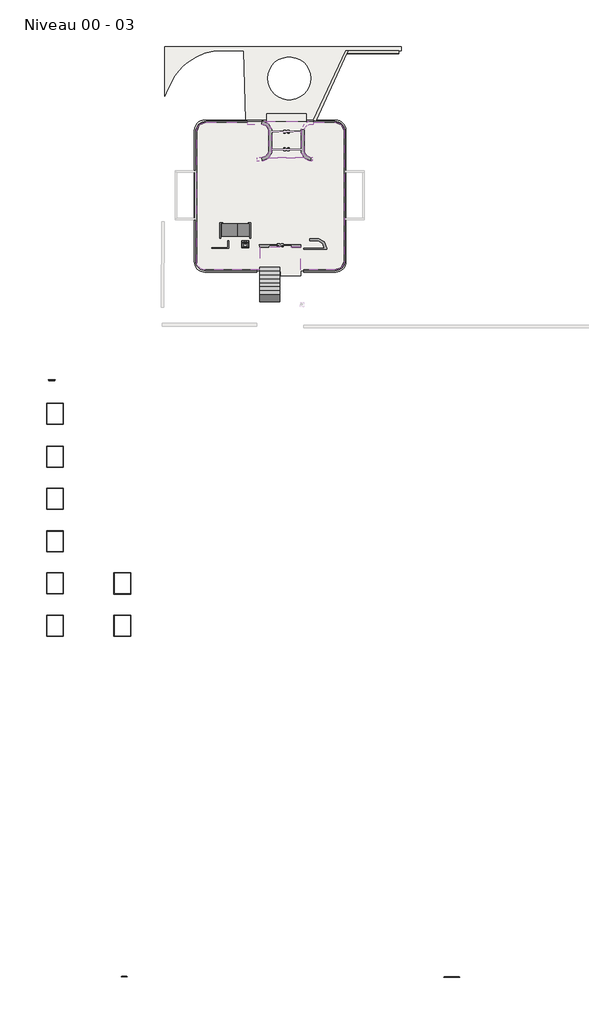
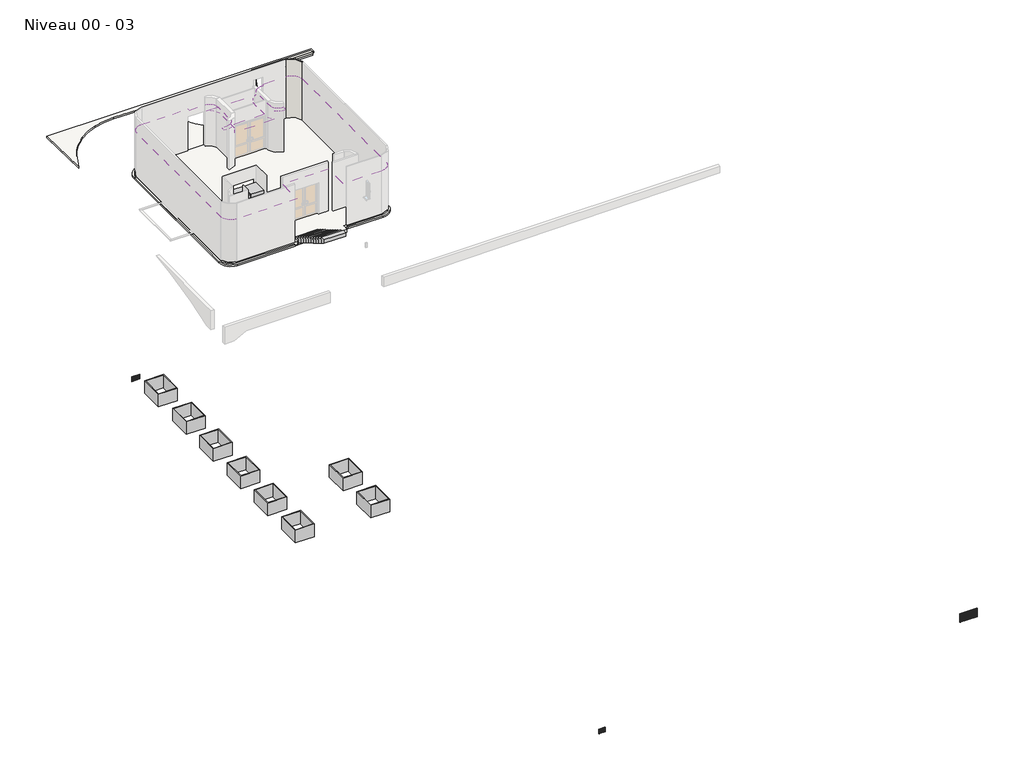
# One storey, part 2 of 2: 4 proxies, 4 slabs, 3 coverings, 3 walls, 1 flow terminal, 1 furniture element, 1 stair flight.
"""IFC4 building model written with IfcOpenShell, lengths in millimetres."""

from ifc_helpers import new_model, si_unit, point, frame, frame_2d, origin, place, context, project, spatial, polyline, circle_curve, ellipse_curve, trimmed, segment, composite_curve, outline, extrude, faceted_brep, transform, mapped, element, save
from ifc_brep_helpers import plane_surface, cylinder_surface, revolved_surface, advanced_brep
from components import generic_models_4b47ab79, type_a_962f2aec, type_a_52706c0e, type_a_0a922c0d, lavabo_mural_02_2417838b, furniture_e2f196c9

model = new_model("IFC4")

# Units and contexts
model_context = context("Model", 3, world=origin())
ifc_project = project(units=[si_unit("LENGTHUNIT", "METRE", prefix="MILLI")], contexts=[model_context])

# Site, building, storey
site = spatial("IfcSite", under=ifc_project)
building = spatial("IfcBuilding", under=site)
storey = spatial("IfcBuildingStorey", under=building, Name="Niveau 00 - 03", Elevation=2313.3082742)

# Proxies
placement = place(None, origin())
generic_models_shape = generic_models_4b47ab79(model_context)
element("IfcBuildingElementProxy", 1, Name="Modèles génériques 2 : Modèles génériques 2", ObjectType="Modèles génériques 2 : Modèles génériques 2", at=placement, inside=storey, context=model_context, shape_type="MappedRepresentation", body=[
    mapped(generic_models_shape, transform((0.0, 0.0, 0.0), x_axis=(1.0, 0.0, 0.0), y_axis=(0.0, 1.0, 0.0), z_axis=(0.0, 0.0, 1.0))),
])
type_a_shape = type_a_962f2aec(model_context)
element("IfcBuildingElementProxy", 2, Name="Grille d'aération - Mur : Type A", ObjectType="Grille d'aération - Mur : Type A", at=placement, inside=storey, context=model_context, shape_type="MappedRepresentation", body=[
    mapped(type_a_shape, transform((-5019.8710852, -34529.054307, 443.3082742), x_axis=(-1.0, 0.0, 0.0), y_axis=(0.0, -1.0, 0.0), z_axis=(0.0, 0.0, 1.0))),
])
type_a_2_shape = type_a_52706c0e(model_context)
element("IfcBuildingElementProxy", 3, Name="Grille d'aération - Mur : Type A", ObjectType="Grille d'aération - Mur : Type A", at=placement, inside=storey, context=model_context, shape_type="MappedRepresentation", body=[
    mapped(type_a_2_shape, transform((-33621.3989741, 7697.6789506, 720.7361025), x_axis=(1.0, 0.0, 0.0), y_axis=(0.0, 1.0, 0.0), z_axis=(0.0, 0.0, 1.0))),
])
type_a_3_shape = type_a_0a922c0d(model_context)
element("IfcBuildingElementProxy", 4, Name="Grille d'aération - Mur : Type A", ObjectType="Grille d'aération - Mur : Type A", at=placement, inside=storey, context=model_context, shape_type="MappedRepresentation", body=[
    mapped(type_a_3_shape, transform((-28237.8120278, -34384.054307, 1112.6019763), x_axis=(-1.0, 0.0, 0.0), y_axis=(0.0, -1.0, 0.0), z_axis=(0.0, 0.0, 1.0))),
])

# Coverings
element("IfcCovering", 5, ObjectType="Normal", at=placement, inside=storey, context=model_context, shape_type="SweptSolid", body=[
    extrude(outline(composite_curve([segment(polyline([(-18422.3557957, 26161.6048398), (-15283.3597966, 26161.6048398)]), True, "CONTINUOUS"), segment(trimmed(circle_curve(frame_2d((-15064.2635748, 25432.2792504)), 761.5241098), [point((-15283.3597966, 26161.6048398))], [point((-15805.3577962, 25607.4886247))], True, "CARTESIAN"), True, "CONTINUOUS"), segment(polyline([(-15805.3577962, 25607.4886247), (-15805.3577962, 23953.4008177)]), True, "CONTINUOUS"), segment(trimmed(circle_curve(frame_2d((-15064.2635748, 24128.610192)), 761.5241098), [point((-15805.3577962, 23953.4008177))], [point((-15601.894376, 23589.2846026))], True, "CARTESIAN"), True, "CONTINUOUS"), segment(polyline([(-15601.894376, 23589.2846026), (-18103.8212163, 23589.2846026)]), True, "CONTINUOUS"), segment(trimmed(circle_curve(frame_2d((-18641.4520175, 24128.610192)), 761.5241098), [point((-18103.8212163, 23589.2846026))], [point((-17900.3577962, 23953.4008177))], True, "CARTESIAN"), True, "CONTINUOUS"), segment(polyline([(-17900.3577962, 23953.4008177), (-17900.3577962, 25607.4886247)]), True, "CONTINUOUS"), segment(trimmed(circle_curve(frame_2d((-18641.4520175, 25432.2792504)), 761.5241098), [point((-17900.3577962, 25607.4886247))], [point((-18422.3557957, 26161.6048398))], True, "CARTESIAN"), True, "CONTINUOUS")], self_intersect=False)), frame((0.0, 0.0, 4513.3082742), z_axis=(0.0, 0.0, 1.0), x_axis=(1.0, 0.0, 0.0)), (0.0, 0.0, 1.0), 50.0),
])
element("IfcCovering", 6, ObjectType="Normal", at=placement, inside=storey, context=model_context, shape_type="SweptSolid", body=[
    extrude(outline(composite_curve([segment(polyline([(-13091.9155198, 26007.5933445), (-13091.9155198, 15704.8586078)]), True, "CONTINUOUS"), segment(trimmed(circle_curve(frame_2d((-13414.5311995, 16284.774502)), 663.6138344), [point((-13091.9155198, 15704.8586078))], [point((-13414.5311995, 15621.1606676))], False, "CARTESIAN"), True, "CONTINUOUS"), segment(polyline([(-13414.5311995, 15621.1606676), (-15835.8209314, 15621.1606676), (-15835.8209314, 17246.0043299), (-18744.0938634, 17246.0043299), (-18744.0938634, 15632.177026), (-22622.8982308, 15632.177026)]), True, "CONTINUOUS"), segment(trimmed(circle_curve(frame_2d((-22586.1843928, 16294.774502)), 663.6138344), [point((-22622.8982308, 15632.177026))], [point((-23228.5797272, 16128.3066207))], False, "CARTESIAN"), True, "CONTINUOUS"), segment(polyline([(-23228.5797272, 16128.3066207), (-23228.5797272, 25455.877722)]), True, "CONTINUOUS"), segment(trimmed(circle_curve(frame_2d((-22565.5504228, 25428.0305911)), 663.6138344), [point((-23228.5797272, 25455.877722))], [point((-22558.3021389, 26091.6048398))], False, "CARTESIAN"), True, "CONTINUOUS"), segment(polyline([(-22558.3021389, 26091.6048398), (-19632.973568, 26091.6048398), (-19632.973568, 25971.6048398), (-18592.7050168, 25971.6048398)]), True, "CONTINUOUS"), segment(trimmed(circle_curve(frame_2d((-18641.4520175, 25432.2792504)), 541.5241098), [point((-18592.7050168, 25971.6048398))], [point((-18120.3577962, 25579.6195841))], False, "CARTESIAN"), True, "CONTINUOUS"), segment(polyline([(-18120.3577962, 25579.6195841), (-18120.3577962, 23981.2698583)]), True, "CONTINUOUS"), segment(trimmed(circle_curve(frame_2d((-18641.4520175, 24128.610192)), 541.5241098), [point((-18120.3577962, 23981.2698583))], [point((-18592.7050168, 23589.2846026))], False, "CARTESIAN"), True, "CONTINUOUS"), segment(polyline([(-18592.7050168, 23589.2846026), (-18947.973568, 23589.2846026), (-18947.973568, 23369.2846026), (-18583.6279824, 23369.2846026)]), True, "CONTINUOUS"), segment(trimmed(circle_curve(frame_2d((-18641.4520175, 24128.610192)), 761.5241098), [point((-18583.6279824, 23369.2846026))], [point((-18103.8212163, 23589.2846026))], True, "CARTESIAN"), True, "CONTINUOUS"), segment(polyline([(-18103.8212163, 23589.2846026), (-15601.894376, 23589.2846026)]), True, "CONTINUOUS"), segment(trimmed(circle_curve(frame_2d((-15064.2635748, 24128.610192)), 761.5241098), [point((-15601.894376, 23589.2846026))], [point((-15122.0876099, 23369.2846026))], True, "CARTESIAN"), True, "CONTINUOUS"), segment(polyline([(-15122.0876099, 23369.2846026), (-14992.7420243, 23369.2846026), (-14992.7420243, 23589.2846026), (-15113.0105755, 23589.2846026)]), True, "CONTINUOUS"), segment(trimmed(circle_curve(frame_2d((-15064.2635748, 24128.610192)), 541.5241098), [point((-15113.0105755, 23589.2846026))], [point((-15585.3577962, 23981.2698583))], False, "CARTESIAN"), True, "CONTINUOUS"), segment(polyline([(-15585.3577962, 23981.2698583), (-15585.3577962, 25579.6195841)]), True, "CONTINUOUS"), segment(trimmed(circle_curve(frame_2d((-15064.2635748, 25432.2792504)), 541.5241098), [point((-15585.3577962, 25579.6195841))], [point((-14902.7420243, 25949.1536551))], False, "CARTESIAN"), True, "CONTINUOUS"), segment(polyline([(-14902.7420243, 25949.1536551), (-14902.7420243, 26091.6048398), (-13422.4134534, 26091.6048398)]), True, "CONTINUOUS"), segment(trimmed(circle_curve(frame_2d((-13415.1651695, 25428.0305911)), 663.6138344), [point((-13422.4134534, 26091.6048398))], [point((-13091.9155198, 26007.5933445))], False, "CARTESIAN"), True, "CONTINUOUS")], self_intersect=False)), frame((0.0, 0.0, 2013.3082742), z_axis=(0.0, 0.0, 1.0), x_axis=(1.0, 0.0, 0.0)), (0.0, 0.0, 1.0), 50.0),
])
element("IfcCovering", 7, ObjectType="Normal FP bois", at=placement, inside=storey, context=model_context, shape_type="SweptSolid", body=[
    extrude(outline(composite_curve([segment(polyline([(-12753.5797272, 25479.8767464), (-12753.5797272, 16225.3903919)]), True, "CONTINUOUS"), segment(trimmed(circle_curve(frame_2d((-13414.5311995, 16284.774502)), 663.6138344), [point((-12753.5797272, 16225.3903919))], [point((-13414.5311995, 15621.1606676))], False, "CARTESIAN"), True, "CONTINUOUS"), segment(polyline([(-13414.5311995, 15621.1606676), (-15835.8209314, 15621.1606676), (-15835.8209314, 17246.0043299), (-18744.0938634, 17246.0043299), (-18744.0938634, 15632.177026), (-22622.8982308, 15632.177026)]), True, "CONTINUOUS"), segment(trimmed(circle_curve(frame_2d((-22586.1843928, 16294.774502)), 663.6138344), [point((-22622.8982308, 15632.177026))], [point((-23228.5797272, 16128.3066207))], False, "CARTESIAN"), True, "CONTINUOUS"), segment(polyline([(-23228.5797272, 16128.3066207), (-23228.5797272, 25455.877722)]), True, "CONTINUOUS"), segment(trimmed(circle_curve(frame_2d((-22565.5504228, 25428.0305911)), 663.6138344), [point((-23228.5797272, 25455.877722))], [point((-22558.3021389, 26091.6048398))], False, "CARTESIAN"), True, "CONTINUOUS"), segment(polyline([(-22558.3021389, 26091.6048398), (-19632.973568, 26091.6048398), (-19632.973568, 25971.6048398), (-18592.7050168, 25971.6048398)]), True, "CONTINUOUS"), segment(trimmed(circle_curve(frame_2d((-18641.4520175, 25432.2792504)), 541.5241098), [point((-18592.7050168, 25971.6048398))], [point((-18120.3577962, 25579.6195841))], False, "CARTESIAN"), True, "CONTINUOUS"), segment(polyline([(-18120.3577962, 25579.6195841), (-18120.3577962, 23981.2698583)]), True, "CONTINUOUS"), segment(trimmed(circle_curve(frame_2d((-18641.4520175, 24128.610192)), 541.5241098), [point((-18120.3577962, 23981.2698583))], [point((-18592.7050168, 23589.2846026))], False, "CARTESIAN"), True, "CONTINUOUS"), segment(polyline([(-18592.7050168, 23589.2846026), (-18947.973568, 23589.2846026), (-18947.973568, 23369.2846026), (-18583.6279824, 23369.2846026)]), True, "CONTINUOUS"), segment(trimmed(circle_curve(frame_2d((-18641.4520175, 24128.610192)), 761.5241098), [point((-18583.6279824, 23369.2846026))], [point((-18103.8212163, 23589.2846026))], True, "CARTESIAN"), True, "CONTINUOUS"), segment(polyline([(-18103.8212163, 23589.2846026), (-15601.894376, 23589.2846026)]), True, "CONTINUOUS"), segment(trimmed(circle_curve(frame_2d((-15064.2635748, 24128.610192)), 761.5241098), [point((-15601.894376, 23589.2846026))], [point((-15122.0876099, 23369.2846026))], True, "CARTESIAN"), True, "CONTINUOUS"), segment(polyline([(-15122.0876099, 23369.2846026), (-14992.7420243, 23369.2846026), (-14992.7420243, 23589.2846026), (-15113.0105755, 23589.2846026)]), True, "CONTINUOUS"), segment(trimmed(circle_curve(frame_2d((-15064.2635748, 24128.610192)), 541.5241098), [point((-15113.0105755, 23589.2846026))], [point((-15585.3577962, 23981.2698583))], False, "CARTESIAN"), True, "CONTINUOUS"), segment(polyline([(-15585.3577962, 23981.2698583), (-15585.3577962, 25579.6195841)]), True, "CONTINUOUS"), segment(trimmed(circle_curve(frame_2d((-15064.2635748, 25432.2792504)), 541.5241098), [point((-15585.3577962, 25579.6195841))], [point((-14902.7420243, 25949.1536551))], False, "CARTESIAN"), True, "CONTINUOUS"), segment(polyline([(-14902.7420243, 25949.1536551), (-14902.7420243, 26091.6048398), (-13422.4134534, 26091.6048398)]), True, "CONTINUOUS"), segment(trimmed(circle_curve(frame_2d((-13415.1651695, 25428.0305911)), 663.6138344), [point((-13422.4134534, 26091.6048398))], [point((-12753.5797272, 25479.8767464))], False, "CARTESIAN"), True, "CONTINUOUS")], self_intersect=False)), frame((0.0, 0.0, 5113.3082742), z_axis=(0.0, 0.0, 1.0), x_axis=(1.0, 0.0, 0.0)), (0.0, 0.0, 1.0), 50.0),
])

# Flow terminal
lavabo_mural_02_shape = lavabo_mural_02_2417838b(model_context)
element("IfcFlowTerminal", 8, ObjectType="Lavabo mural - 02 : 500 mm x 500 mm", at=placement, inside=storey, context=model_context, shape_type="MappedRepresentation", body=[
    mapped(lavabo_mural_02_shape, transform((-19650.8720887, 17783.2103044, 2463.3082742), x_axis=(-1.0, 0.0, 0.0), y_axis=(0.0, -1.0, 0.0), z_axis=(0.0, 0.0, 1.0))),
])

# Furniture
furniture_shape = furniture_e2f196c9(model_context)
element("IfcFurniture", 9, ObjectType="Mobilier 1 : Mobilier 1", at=placement, inside=storey, context=model_context, shape_type="MappedRepresentation", body=[
    mapped(furniture_shape, transform((0.0, 0.0, 0.0), x_axis=(1.0, 0.0, 0.0), y_axis=(0.0, 1.0, 0.0), z_axis=(0.0, 0.0, 1.0))),
])

# Slabs
element("IfcSlab", 10, ObjectType="Générique 100 mm - Plein", at=placement, inside=storey, context=model_context, shape_type="AdvancedBrep", body=[
    advanced_brep(
    [(-12752.2043216, 30970.2669841, 1986.5602146), (-14981.2764828, 26168.9547989, 2112.2869989), (-19740.0250458, 26168.9547989, 2112.2869989), (-19884.2809959, 31164.6919502, 1981.4690177), (-21405.1328258, 31185.3690754, 1980.9275681), (-22689.7407353, 30984.414787, 1986.1897413), (-23867.1761647, 30358.27143, 2002.5858822), (-24505.0663721, 29747.3476336, 2018.5834848), (-24992.1852136, 29015.0069569, 2037.7605003), (-25376.8451797, 28179.4102092, 2059.6413712), (-25496.5851694, 27927.5602823, 2066.2362937), (-25496.5851694, 31469.3817214, 1973.4904352), (-8706.0295786, 31469.3817214, 1973.4904352), (-8706.0295786, 31180.2669841, 1981.0611711), (-8906.0295786, 31180.2669841, 1981.0611711), (-8906.0295786, 30970.2669841, 1986.5602146), (-18178.1627302, 29210.4552905, 2032.6425056), (-15138.1627302, 29210.4552905, 2032.6425056), (-25496.5851694, 27927.5602823, 2166.2705729), (-25376.8451797, 28179.4102092, 2159.6756505), (-24992.1852136, 29015.0069569, 2137.7947796), (-24505.0663721, 29747.3476336, 2118.6177641), (-23867.1761647, 30358.27143, 2102.6201614), (-22689.7407353, 30984.414787, 2086.2240206), (-21405.1328258, 31185.3690754, 2080.9618474), (-19884.2809959, 31164.6919502, 2081.5032969), (-19742.4916647, 26254.3764372, 2210.0844338), (-14941.6183668, 26254.3764372, 2210.0844338), (-12752.2043216, 30970.2669841, 2086.5944939), (-8906.0295786, 30970.2669841, 2086.5944939), (-8906.0295786, 31180.2669841, 2081.0954503), (-8706.0295786, 31180.2669841, 2081.0954503), (-8706.0295786, 31469.3817214, 2073.5247145), (-25496.5851694, 31469.3817214, 2073.5247145), (-15138.1627302, 29210.4552905, 2132.6767848), (-18178.1627302, 29210.4552905, 2132.6767848), (-14941.6183668, 26254.3764372, 2113.3082742), (-14981.2764828, 26168.9547989, 2113.3082742), (-19740.0250458, 26168.9547989, 2113.3082742), (-19742.4916647, 26254.3764372, 2113.3082742)],
    [
        (0, 1),
        (1, 2),
        (2, 3),
        (3, 4),
        (4, 5, ellipse_curve(frame((-21457.749421, 27315.2931231, 2082.2690735), z_axis=(0.0, 0.026176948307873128, 0.9996573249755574), x_axis=(0.0, -0.9996573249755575, 0.026176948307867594)), 3871.7603725, 3870.4336169)),
        (5, 6, ellipse_curve(frame((-21396.0645758, 27131.5830602, 2087.0796908), z_axis=(0.0, 0.026176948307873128, 0.9996573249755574), x_axis=(0.0, -0.9996573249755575, 0.026176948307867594)), 4065.6163976, 4064.2232124)),
        (6, 7, ellipse_curve(frame((-21426.7025094, 27171.5889687, 2086.0320992), z_axis=(0.0, 0.026176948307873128, 0.9996573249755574), x_axis=(0.0, -0.9996573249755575, 0.026176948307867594)), 4015.2090886, 4013.8331768)),
        (7, 8, ellipse_curve(frame((-21426.7025527, 27171.5889824, 2086.0320988), z_axis=(0.0, 0.026176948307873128, 0.9996573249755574), x_axis=(0.0, -0.9996573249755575, 0.026176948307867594)), 4015.2090466, 4013.8331348)),
        (8, 9, ellipse_curve(frame((-104454.4989347, 65088.4818447, 1093.1433162), z_axis=(0.0, -0.026176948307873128, -0.9996573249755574), x_axis=(0.0, 0.9996573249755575, -0.026176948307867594)), 87297.0612182, 87267.1466956)),
        (9, 10, ellipse_curve(frame((-43128.5366774, 36464.9172018, 1842.677735), z_axis=(0.0, -0.026176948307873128, -0.9996573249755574), x_axis=(0.0, 0.9996573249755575, -0.026176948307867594)), 19596.8194024, 19590.1040619)),
        (10, 11),
        (11, 12),
        (12, 13),
        (13, 14),
        (14, 15),
        (15, 0),
        (16, 17, ellipse_curve(frame((-16658.1627302, 29210.4552905, 2032.6425056), z_axis=(0.0, 0.026176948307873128, 0.9996573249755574), x_axis=(0.0, -0.9996573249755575, 0.026176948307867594)), 1520.5210446, 1520.0)),
        (17, 16, ellipse_curve(frame((-16658.1627302, 29210.4552905, 2032.6425056), z_axis=(0.0, 0.026176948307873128, 0.9996573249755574), x_axis=(0.0, -0.9996573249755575, 0.026176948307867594)), 1520.5210446, 1520.0)),
        (18, 19, ellipse_curve(frame((-43128.5366774, 36464.9172018, 1942.7120142), z_axis=(0.0, 0.026176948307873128, 0.9996573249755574), x_axis=(0.0, 0.9996573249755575, -0.026176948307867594)), 19596.8194024, 19590.1040619)),
        (19, 20, ellipse_curve(frame((-104454.4989347, 65088.4818447, 1193.1775954), z_axis=(0.0, 0.026176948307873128, 0.9996573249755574), x_axis=(0.0, 0.9996573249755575, -0.026176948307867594)), 87297.0612182, 87267.1466956)),
        (20, 21, ellipse_curve(frame((-21426.7025527, 27171.5889824, 2186.0663781), z_axis=(0.0, -0.026176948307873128, -0.9996573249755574), x_axis=(0.0, -0.9996573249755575, 0.026176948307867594)), 4015.2090466, 4013.8331348)),
        (21, 22, ellipse_curve(frame((-21426.7025094, 27171.5889687, 2186.0663784), z_axis=(0.0, -0.026176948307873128, -0.9996573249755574), x_axis=(0.0, -0.9996573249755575, 0.026176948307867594)), 4015.2090886, 4013.8331768)),
        (22, 23, ellipse_curve(frame((-21396.0645758, 27131.5830602, 2187.11397), z_axis=(0.0, -0.026176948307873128, -0.9996573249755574), x_axis=(0.0, -0.9996573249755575, 0.026176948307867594)), 4065.6163976, 4064.2232124)),
        (23, 24, ellipse_curve(frame((-21457.749421, 27315.2931231, 2182.3033527), z_axis=(0.0, -0.026176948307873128, -0.9996573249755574), x_axis=(0.0, -0.9996573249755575, 0.026176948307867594)), 3871.7603725, 3870.4336169)),
        (24, 25),
        (25, 26),
        (26, 27),
        (27, 28),
        (28, 29),
        (29, 30),
        (30, 31),
        (31, 32),
        (32, 33),
        (33, 18),
        (34, 35, ellipse_curve(frame((-16658.1627302, 29210.4552905, 2132.6767848), z_axis=(0.0, -0.026176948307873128, -0.9996573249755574), x_axis=(0.0, -0.9996573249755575, 0.026176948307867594)), 1520.5210446, 1520.0)),
        (35, 34, ellipse_curve(frame((-16658.1627302, 29210.4552905, 2132.6767848), z_axis=(0.0, -0.026176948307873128, -0.9996573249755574), x_axis=(0.0, -0.9996573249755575, 0.026176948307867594)), 1520.5210446, 1520.0)),
        (0, 28),
        (27, 36),
        (36, 37),
        (37, 1),
        (37, 38),
        (38, 2),
        (38, 39),
        (39, 26),
        (25, 3),
        (9, 19),
        (18, 10),
        (8, 20),
        (7, 21),
        (6, 22),
        (5, 23),
        (4, 24),
        (33, 11),
        (32, 12),
        (31, 13),
        (15, 29),
        (16, 35),
        (34, 17),
        (36, 39),
        (30, 14),
    ],
    [
        plane_surface(frame((-17360.6507643, 33768.9547989, 1913.273995), z_axis=(0.0, -0.026176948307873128, -0.9996573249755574), x_axis=(0.0, -0.9996573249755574, 0.026176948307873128))),
        plane_surface(frame((-17360.6507643, 33768.9547989, 2013.3082742), z_axis=(0.0, 0.026176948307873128, 0.9996573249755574), x_axis=(0.0, 0.9996573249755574, -0.026176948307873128))),
        plane_surface(frame((-12752.2043216, 30970.2669841, 1986.5602146), z_axis=(0.9070167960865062, -0.42109444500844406, 0.0), x_axis=(0.0, 0.0, 1.0))),
        plane_surface(frame((-14981.2764828, 26168.9547989, 2112.2869989), z_axis=(0.0, -1.0, 0.0), x_axis=(0.0, 0.0, 1.0))),
        plane_surface(frame((-19740.0250458, 26168.9547989, 2112.2869989), z_axis=(-0.9995833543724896, -0.028863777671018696, 0.0), x_axis=(0.0, 0.0, 1.0))),
        cylinder_surface(frame((-43128.5366774, 36464.9172018, 2013.3082742), z_axis=(0.0, 0.0, -1.0), x_axis=(1.0, 0.0, 0.0)), 19590.1040619),
        cylinder_surface(frame((-104454.4989347, 65088.4818447, 2013.3082742), z_axis=(0.0, 0.0, -1.0), x_axis=(1.0, 0.0, 0.0)), 87267.1466956),
        revolved_surface(polyline([(-17412.8694179, 27171.5889824, 2291.1722977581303), (-17412.8694179, 27171.5889824, 1980.9261791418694)]), (-21426.7025527, 27171.5889824, 2013.3082742), (0.0, 0.0, 1.0)),
        revolved_surface(polyline([(-17412.8693326, 27171.5889687, 2291.172299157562), (-17412.8693326, 27171.5889687, 1980.9261784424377)]), (-21426.7025094, 27171.5889687, 2013.3082742), (0.0, 0.0, 1.0)),
        revolved_surface(polyline([(-17331.8413634, 27131.5830602, 2293.539400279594), (-17331.8413634, 27131.5830602, 1980.654260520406)]), (-21396.0645758, 27131.5830602, 2013.3082742), (0.0, 0.0, 1.0)),
        revolved_surface(polyline([(-17587.3158041, 27315.2931231, 2283.6542238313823), (-17587.3158041, 27315.2931231, 1980.9182023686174)]), (-21457.749421, 27315.2931231, 2013.3082742), (0.0, 0.0, 1.0)),
        plane_surface(frame((-19884.2809959, 31164.6919502, 1981.4690177), z_axis=(-0.013594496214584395, -0.9999075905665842, 0.0), x_axis=(0.0, 0.0, 1.0))),
        plane_surface(frame((-25496.5851694, 27927.5602823, 2066.2362937), z_axis=(-1.0, 0.0, 0.0), x_axis=(0.0, 0.0, 1.0))),
        plane_surface(frame((-25496.5851694, 31469.3817214, 1973.4904352), z_axis=(0.0, 1.0, 0.0), x_axis=(0.0, 0.0, 1.0))),
        plane_surface(frame((-8706.0295786, 31469.3817214, 1973.4904352), z_axis=(1.0, 0.0, 0.0), x_axis=(0.0, 0.0, 1.0))),
        plane_surface(frame((-8906.0295786, 30970.2669841, 1986.5602146), z_axis=(0.0, -1.0, 0.0), x_axis=(0.0, 0.0, 1.0))),
        revolved_surface(polyline([(-15138.162730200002, 29210.4552905, 2172.479385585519), (-15138.162730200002, 29210.4552905, 1992.839904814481)]), (-16658.1627302, 29210.4552905, 2313.3082742), (0.0, 0.0, 1.0)),
        plane_surface(frame((-18793.9891755, 15718.9515879, 2113.3082742), z_axis=(0.0, 0.0, 1.0), x_axis=(1.0, 0.0, 0.0))),
        plane_surface(frame((-22648.1782787, 26254.3764372, 2113.3082742), z_axis=(0.0, -1.0, 0.0), x_axis=(0.0, 0.0, 1.0))),
        plane_surface(frame((-8706.0295786, 31180.2669841, 1981.0611711), z_axis=(0.0, -1.0, 0.0), x_axis=(0.0, 0.0, 1.0))),
        plane_surface(frame((-8906.0295786, 31180.2669841, 1981.0611711), z_axis=(1.0, 0.0, 0.0), x_axis=(0.0, 0.0, 1.0))),
    ],
    [
        (0, [[1, 2, 3, 4, 5, 6, 7, 8, 9, 10, 11, 12, 13, 14, 15, 16], [17, 18]]),
        (1, [[19, 20, 21, 22, 23, 24, 25, 26, 27, 28, 29, 30, 31, 32, 33, 34], [35, 36]]),
        (2, [[-1, 37, -28, 38, 39, 40]]),
        (3, [[-2, -40, 41, 42]]),
        (4, [[-3, -42, 43, 44, -26, 45]]),
        (5, [[-10, 46, -19, 47]]),
        (6, [[-9, 48, -20, -46]]),
        (7, [[-8, 49, -21, -48]]),
        (8, [[-7, 50, -22, -49]]),
        (9, [[-6, 51, -23, -50]]),
        (10, [[-5, 52, -24, -51]]),
        (11, [[-4, -45, -25, -52]]),
        (12, [[-11, -47, -34, 53]]),
        (13, [[-12, -53, -33, 54]]),
        (14, [[-13, -54, -32, 55]]),
        (15, [[-16, 56, -29, -37]]),
        (16, [[-17, 57, -35, 58]]),
        (16, [[-18, -58, -36, -57]]),
        (17, [[59, -43, -41, -39]]),
        (18, [[-59, -38, -27, -44]]),
        (19, [[-14, -55, -31, 60]]),
        (20, [[-15, -60, -30, -56]]),
    ],
),
])
element("IfcSlab", 11, ObjectType="Générique 100 mm - Plein", at=placement, inside=storey, context=model_context, shape_type="SweptSolid", body=[
    extrude(outline(polyline([(-18249.969343, 26103.8110649), (-18249.969343, 26703.8110649), (-15436.1992541, 26703.8110649), (-15436.1992541, 26103.8110649), (-18249.969343, 26103.8110649)])), frame((0.0, 0.0, 2153.3082742), z_axis=(0.0, 0.0, 1.0), x_axis=(1.0, 0.0, 0.0)), (0.0, 0.0, 1.0), 100.0),
])
element("IfcSlab", 12, ObjectType="Générique 100 mm - Plein", at=placement, inside=storey, context=model_context, shape_type="AdvancedBrep", body=[
    advanced_brep(
    [(-15635.8209314, 15718.9515879, 2113.3082742), (-13280.2368233, 15718.9515879, 2113.3082742), (-12698.5533897, 16300.6350214, 2113.3082742), (-12698.5533897, 25396.975352, 2113.3082742), (-13306.0486969, 26004.4706592, 2113.3082742), (-22606.1217523, 26004.4706592, 2113.3082742), (-23138.1782793, 25472.4141322, 2113.3082742), (-23138.1782793, 16208.9515887, 2113.3082742), (-22648.1782786, 15718.9515879, 2113.3082742), (-18963.9891753, 15718.9515879, 2113.3082742), (-18963.9891753, 15468.9515884, 2113.3082742), (-22648.1782786, 15468.9515884, 2113.3082742), (-23388.1782788, 16208.9515887, 2113.3082742), (-23388.1782788, 25514.376437, 2113.3082742), (-22648.1782787, 26254.3764372, 2113.3082742), (-19742.4916647, 26254.3764372, 2113.3082742), (-14941.6183668, 26254.3764372, 2113.3082742), (-13372.8767049, 26254.3764372, 2113.3082742), (-12632.8767062, 25514.3764384, 2113.3082742), (-12632.8767062, 16208.9515894, 2113.3082742), (-13372.8767064, 15468.9515891, 2113.3082742), (-15635.8209314, 15468.9515891, 2113.3082742), (-15635.8209314, 15718.9515879, 2213.3082742), (-15635.8209314, 15468.9515891, 2213.3082742), (-13372.8767064, 15468.9515891, 2213.3082742), (-12632.8767062, 16208.9515894, 2213.3082742), (-12632.8767062, 25514.3764384, 2213.3082742), (-13372.8767049, 26254.3764372, 2213.3082742), (-22648.1782787, 26254.3764372, 2213.3082742), (-23388.1782788, 25514.376437, 2213.3082742), (-23388.1782788, 16208.9515887, 2213.3082742), (-22648.1782786, 15468.9515884, 2213.3082742), (-18963.9891753, 15468.9515884, 2213.3082742), (-18963.9891753, 15718.9515879, 2213.3082742), (-22648.1782786, 15718.9515879, 2213.3082742), (-23138.1782793, 16208.9515887, 2213.3082742), (-23138.1782793, 25472.4141322, 2213.3082742), (-22606.1217523, 26004.4706592, 2213.3082742), (-13306.0486969, 26004.4706592, 2213.3082742), (-12698.5533897, 25396.975352, 2213.3082742), (-12698.5533897, 16300.6350214, 2213.3082742), (-13280.2368233, 15718.9515879, 2213.3082742)],
    [
        (0, 1),
        (1, 2, circle_curve(frame((-13280.2368233, 16300.6350214, 2113.3082742), z_axis=(0.0, 0.0, 1.0), x_axis=(1.0, 0.0, 0.0)), 581.6834335)),
        (2, 3),
        (3, 4, circle_curve(frame((-13306.0486969, 25396.975352, 2113.3082742), z_axis=(0.0, 0.0, 1.0), x_axis=(1.0, 0.0, 0.0)), 607.4953071)),
        (4, 5),
        (5, 6, circle_curve(frame((-22606.1217523, 25472.4141322, 2113.3082742), z_axis=(0.0, 0.0, 1.0), x_axis=(1.0, 0.0, 0.0)), 532.056527)),
        (6, 7),
        (7, 8, circle_curve(frame((-22648.1782786, 16208.9515887, 2113.3082742), z_axis=(0.0, 0.0, 1.0), x_axis=(1.0, 0.0, 0.0)), 490.0000008)),
        (8, 9),
        (9, 10),
        (10, 11),
        (11, 12, circle_curve(frame((-22648.1782786, 16208.9515887, 2113.3082742), z_axis=(0.0, 0.0, -1.0), x_axis=(1.0, 0.0, 0.0)), 740.0000002)),
        (12, 13),
        (13, 14, circle_curve(frame((-22648.1782787, 25514.376437, 2113.3082742), z_axis=(0.0, 0.0, -1.0), x_axis=(1.0, 0.0, 0.0)), 740.0000001)),
        (14, 15),
        (15, 16),
        (16, 17),
        (17, 18, circle_curve(frame((-13372.8767049, 25514.3764384, 2113.3082742), z_axis=(0.0, 0.0, -1.0), x_axis=(1.0, 0.0, 0.0)), 739.9999987)),
        (18, 19),
        (19, 20, circle_curve(frame((-13372.8767064, 16208.9515894, 2113.3082742), z_axis=(0.0, 0.0, -1.0), x_axis=(1.0, 0.0, 0.0)), 740.0000002)),
        (20, 21),
        (21, 0),
        (22, 23),
        (23, 24),
        (24, 25, circle_curve(frame((-13372.8767064, 16208.9515894, 2213.3082742), z_axis=(0.0, 0.0, 1.0), x_axis=(1.0, 0.0, 0.0)), 740.0000002)),
        (25, 26),
        (26, 27, circle_curve(frame((-13372.8767049, 25514.3764384, 2213.3082742), z_axis=(0.0, 0.0, 1.0), x_axis=(1.0, 0.0, 0.0)), 739.9999987)),
        (27, 28),
        (28, 29, circle_curve(frame((-22648.1782787, 25514.376437, 2213.3082742), z_axis=(0.0, 0.0, 1.0), x_axis=(1.0, 0.0, 0.0)), 740.0000001)),
        (29, 30),
        (30, 31, circle_curve(frame((-22648.1782786, 16208.9515887, 2213.3082742), z_axis=(0.0, 0.0, 1.0), x_axis=(1.0, 0.0, 0.0)), 740.0000002)),
        (31, 32),
        (32, 33),
        (33, 34),
        (34, 35, circle_curve(frame((-22648.1782786, 16208.9515887, 2213.3082742), z_axis=(0.0, 0.0, -1.0), x_axis=(1.0, 0.0, 0.0)), 490.0000008)),
        (35, 36),
        (36, 37, circle_curve(frame((-22606.1217523, 25472.4141322, 2213.3082742), z_axis=(0.0, 0.0, -1.0), x_axis=(1.0, 0.0, 0.0)), 532.056527)),
        (37, 38),
        (38, 39, circle_curve(frame((-13306.0486969, 25396.975352, 2213.3082742), z_axis=(0.0, 0.0, -1.0), x_axis=(1.0, 0.0, 0.0)), 607.4953071)),
        (39, 40),
        (40, 41, circle_curve(frame((-13280.2368233, 16300.6350214, 2213.3082742), z_axis=(0.0, 0.0, -1.0), x_axis=(1.0, 0.0, 0.0)), 581.6834335)),
        (41, 22),
        (0, 22),
        (41, 1),
        (7, 35),
        (34, 8),
        (6, 36),
        (5, 37),
        (4, 38),
        (3, 39),
        (2, 40),
        (21, 23),
        (9, 33),
        (32, 10),
        (31, 11),
        (30, 12),
        (29, 13),
        (28, 14),
        (27, 17),
        (26, 18),
        (25, 19),
        (24, 20),
    ],
    [
        plane_surface(frame((-18793.9891755, 15718.9515879, 2113.3082742), z_axis=(0.0, 0.0, -1.0), x_axis=(1.0, 0.0, 0.0))),
        plane_surface(frame((-18793.9891755, 15718.9515879, 2213.3082742), z_axis=(0.0, 0.0, 1.0), x_axis=(-1.0, 0.0, 0.0))),
        plane_surface(frame((-15635.8209314, 15718.9515879, 2113.3082742), z_axis=(0.0, 1.0, 0.0), x_axis=(0.0, 0.0, 1.0))),
        revolved_surface(polyline([(-22158.1782778, 16208.9515887, 2213.3082742), (-22158.1782778, 16208.9515887, 2113.3082742)]), (-22648.1782786, 16208.9515887, 2213.3082742), (0.0, 0.0, 1.0)),
        plane_surface(frame((-23138.1782793, 25472.4141322, 2113.3082742), z_axis=(1.0, 0.0, 0.0), x_axis=(0.0, 0.0, 1.0))),
        revolved_surface(polyline([(-22074.0652253, 25472.4141322, 2213.3082742), (-22074.0652253, 25472.4141322, 2113.3082742)]), (-22606.1217523, 25472.4141322, 2213.3082742), (0.0, 0.0, 1.0)),
        plane_surface(frame((-13306.0486969, 26004.4706592, 2113.3082742), z_axis=(0.0, -1.0, 0.0), x_axis=(0.0, 0.0, 1.0))),
        revolved_surface(polyline([(-12698.5533898, 25396.975352, 2213.3082742), (-12698.5533898, 25396.975352, 2113.3082742)]), (-13306.0486969, 25396.975352, 2213.3082742), (0.0, 0.0, 1.0)),
        plane_surface(frame((-12698.5533897, 16300.6350214, 2113.3082742), z_axis=(-1.0, 0.0, 0.0), x_axis=(0.0, 0.0, 1.0))),
        revolved_surface(polyline([(-12698.5533898, 16300.6350214, 2213.3082742), (-12698.5533898, 16300.6350214, 2113.3082742)]), (-13280.2368233, 16300.6350214, 2213.3082742), (0.0, 0.0, 1.0)),
        plane_surface(frame((-15635.8209314, 15468.9515891, 2113.3082742), z_axis=(-1.0, 0.0, 0.0), x_axis=(0.0, 0.0, 1.0))),
        plane_surface(frame((-18963.9891753, 15718.9515879, 2113.3082742), z_axis=(1.0, 0.0, 0.0), x_axis=(0.0, 0.0, 1.0))),
        plane_surface(frame((-22648.1782786, 15718.9515879, 2113.3082742), z_axis=(0.0, 1.0, 0.0), x_axis=(0.0, 0.0, 1.0))),
        plane_surface(frame((-18963.9891753, 15468.9515884, 2113.3082742), z_axis=(0.0, -1.0, 0.0), x_axis=(0.0, 0.0, 1.0))),
        cylinder_surface(frame((-22648.1782786, 16208.9515887, 2213.3082742), z_axis=(0.0, 0.0, -1.0), x_axis=(1.0, 0.0, 0.0)), 740.0000002),
        plane_surface(frame((-23388.1782788, 16208.9515887, 2113.3082742), z_axis=(-1.0, 0.0, 0.0), x_axis=(0.0, 0.0, 1.0))),
        cylinder_surface(frame((-22648.1782787, 25514.376437, 2213.3082742), z_axis=(0.0, 0.0, -1.0), x_axis=(1.0, 0.0, 0.0)), 740.0000001),
        plane_surface(frame((-22648.1782787, 26254.3764372, 2113.3082742), z_axis=(0.0, 1.0, 0.0), x_axis=(0.0, 0.0, 1.0))),
        cylinder_surface(frame((-13372.8767049, 25514.3764384, 2213.3082742), z_axis=(0.0, 0.0, -1.0), x_axis=(1.0, 0.0, 0.0)), 739.9999987),
        plane_surface(frame((-12632.8767062, 25514.3764384, 2113.3082742), z_axis=(1.0, 0.0, 0.0), x_axis=(0.0, 0.0, 1.0))),
        cylinder_surface(frame((-13372.8767064, 16208.9515894, 2213.3082742), z_axis=(0.0, 0.0, -1.0), x_axis=(1.0, 0.0, 0.0)), 740.0000002),
        plane_surface(frame((-13372.8767064, 15468.9515891, 2113.3082742), z_axis=(0.0, -1.0, 0.0), x_axis=(0.0, 0.0, 1.0))),
    ],
    [
        (0, [[1, 2, 3, 4, 5, 6, 7, 8, 9, 10, 11, 12, 13, 14, 15, 16, 17, 18, 19, 20, 21, 22]]),
        (1, [[23, 24, 25, 26, 27, 28, 29, 30, 31, 32, 33, 34, 35, 36, 37, 38, 39, 40, 41, 42]]),
        (2, [[-1, 43, -42, 44]]),
        (3, [[-8, 45, -35, 46]]),
        (4, [[-7, 47, -36, -45]]),
        (5, [[-6, 48, -37, -47]]),
        (6, [[-5, 49, -38, -48]]),
        (7, [[-4, 50, -39, -49]]),
        (8, [[-3, 51, -40, -50]]),
        (9, [[-2, -44, -41, -51]]),
        (10, [[-22, 52, -23, -43]]),
        (11, [[-10, 53, -33, 54]]),
        (12, [[-9, -46, -34, -53]]),
        (13, [[-11, -54, -32, 55]]),
        (14, [[-12, -55, -31, 56]]),
        (15, [[-13, -56, -30, 57]]),
        (16, [[-14, -57, -29, 58]]),
        (17, [[-17, -16, -15, -58, -28, 59]]),
        (18, [[-18, -59, -27, 60]]),
        (19, [[-19, -60, -26, 61]]),
        (20, [[-20, -61, -25, 62]]),
        (21, [[-21, -62, -24, -52]]),
    ],
),
])
element("IfcSlab", 13, ObjectType="Dalle béton 200mm", at=placement, inside=storey, context=model_context, shape_type="SweptSolid", body=[
    extrude(outline(composite_curve([segment(polyline([(-18744.0938634, 15536.177026), (-18744.0938634, 15575.3604876), (-22587.1770661, 15575.3604876)]), True, "CONTINUOUS"), segment(trimmed(circle_curve(frame_2d((-22587.1770661, 16295.1932334)), 719.8327458), [point((-22587.1770661, 15575.3604876))], [point((-23286.4026953, 16124.1882583))], False, "CARTESIAN"), True, "CONTINUOUS"), segment(polyline([(-23286.4026953, 16124.1882583), (-23286.4026953, 25432.7721003)]), True, "CONTINUOUS"), segment(trimmed(circle_curve(frame_2d((-22562.5296666, 25432.7721003)), 723.8730287), [point((-23286.4026953, 25432.7721003))], [point((-22682.2830006, 26146.670763))], False, "CARTESIAN"), True, "CONTINUOUS"), segment(polyline([(-22682.2830006, 26146.670763), (-13417.1935616, 26146.670763)]), True, "CONTINUOUS"), segment(trimmed(circle_curve(frame_2d((-13417.1935616, 25428.0305911)), 718.6401719), [point((-13417.1935616, 26146.670763))], [point((-12698.5533897, 25428.0305911))], False, "CARTESIAN"), True, "CONTINUOUS"), segment(polyline([(-12698.5533897, 25428.0305911), (-12698.5533897, 16276.6480445)]), True, "CONTINUOUS"), segment(trimmed(circle_curve(frame_2d((-13392.7878514, 16276.6480445)), 694.2344616), [point((-12698.5533897, 16276.6480445))], [point((-13392.7878514, 15582.4135828))], False, "CARTESIAN"), True, "CONTINUOUS"), segment(polyline([(-13392.7878514, 15582.4135828), (-15835.8209314, 15582.4135828), (-15835.8209314, 15218.7206382), (-17244.0938634, 15218.7206382), (-17244.0938634, 15536.177026), (-18744.0938634, 15536.177026)]), True, "CONTINUOUS")], self_intersect=False)), frame((0.0, 0.0, 2113.3082742), z_axis=(0.0, 0.0, 1.0), x_axis=(1.0, 0.0, 0.0)), (0.0, 0.0, 1.0), 200.0),
])

# Stair flight
element("IfcStairFlight", 14, ObjectType="Profondeur de structure 200 mm", at=placement, inside=storey, context=model_context, shape_type="Brep", body=[
    faceted_brep([(-17344.0938634, 15536.177026, 2477.7232278), (-17344.0938634, 15816.177026, 2477.7232278), (-18744.0938634, 15816.177026, 2477.7232278), (-18744.0938634, 15536.177026, 2477.7232278), (-17344.0938634, 15536.177026, 2313.3082742), (-17344.0938634, 15816.177026, 2313.3082742), (-18744.0938634, 15816.177026, 2313.3082742), (-18744.0938634, 15536.177026, 2313.3082742), (-17344.0938634, 15256.177026, 2642.1381814), (-17344.0938634, 15536.177026, 2642.1381814), (-18744.0938634, 15536.177026, 2642.1381814), (-18744.0938634, 15256.177026, 2642.1381814), (-17344.0938634, 15256.177026, 2410.2072045), (-17344.0938634, 15421.1966905, 2313.3082742), (-18744.0938634, 15421.1966905, 2313.3082742), (-18744.0938634, 15256.177026, 2410.2072045), (-17344.0938634, 14976.177026, 2806.553135), (-17344.0938634, 15256.177026, 2806.553135), (-18744.0938634, 15256.177026, 2806.553135), (-18744.0938634, 14976.177026, 2806.553135), (-17344.0938634, 14976.177026, 2574.6221581), (-18744.0938634, 14976.177026, 2574.6221581), (-17344.0938634, 14696.177026, 2739.0371117), (-17344.0938634, 14416.177026, 2903.4520653), (-17344.0938634, 14136.177026, 3067.8670189), (-17344.0938634, 13856.177026, 3232.2819725), (-17344.0938634, 13576.177026, 3396.6969262), (-17344.0938634, 13296.177026, 3561.1118798), (-17344.0938634, 13016.177026, 3725.5268334), (-17344.0938634, 12736.177026, 3889.941787), (-18744.0938634, 12736.177026, 3889.941787), (-18744.0938634, 13016.177026, 3725.5268334), (-18744.0938634, 13296.177026, 3561.1118798), (-18744.0938634, 13576.177026, 3396.6969262), (-18744.0938634, 13856.177026, 3232.2819725), (-18744.0938634, 14136.177026, 3067.8670189), (-18744.0938634, 14416.177026, 2903.4520653), (-18744.0938634, 14696.177026, 2739.0371117), (-17344.0938634, 14696.177026, 2970.9680886), (-17344.0938634, 14976.177026, 2970.9680886), (-18744.0938634, 14976.177026, 2970.9680886), (-18744.0938634, 14696.177026, 2970.9680886), (-17344.0938634, 14416.177026, 3135.3830422), (-17344.0938634, 14696.177026, 3135.3830422), (-18744.0938634, 14696.177026, 3135.3830422), (-18744.0938634, 14416.177026, 3135.3830422), (-17344.0938634, 14136.177026, 3299.7979958), (-17344.0938634, 14416.177026, 3299.7979958), (-18744.0938634, 14416.177026, 3299.7979958), (-18744.0938634, 14136.177026, 3299.7979958), (-17344.0938634, 13856.177026, 3464.2129494), (-17344.0938634, 14136.177026, 3464.2129494), (-18744.0938634, 14136.177026, 3464.2129494), (-18744.0938634, 13856.177026, 3464.2129494), (-17344.0938634, 13576.177026, 3628.627903), (-17344.0938634, 13856.177026, 3628.627903), (-18744.0938634, 13856.177026, 3628.627903), (-18744.0938634, 13576.177026, 3628.627903), (-17344.0938634, 13296.177026, 3793.0428566), (-17344.0938634, 13576.177026, 3793.0428566), (-18744.0938634, 13576.177026, 3793.0428566), (-18744.0938634, 13296.177026, 3793.0428566), (-17344.0938634, 13016.177026, 3957.4578103), (-17344.0938634, 13296.177026, 3957.4578103), (-18744.0938634, 13296.177026, 3957.4578103), (-18744.0938634, 13016.177026, 3957.4578103), (-17344.0938634, 12736.177026, 4121.8727639), (-17344.0938634, 13016.177026, 4121.8727639), (-18744.0938634, 13016.177026, 4121.8727639), (-18744.0938634, 12736.177026, 4121.8727639)], [[[0, 1, 2, 3]], [[1, 0, 4, 5]], [[2, 1, 5, 6]], [[3, 2, 6, 7]], [[8, 9, 10, 11]], [[4, 0, 9, 8, 12, 13]], [[0, 3, 10, 9]], [[3, 7, 14, 15, 11, 10]], [[16, 17, 18, 19]], [[17, 16, 20, 12, 8]], [[8, 11, 18, 17]], [[19, 18, 11, 15, 21]], [[5, 4, 13, 14, 7, 6]], [[14, 13, 12, 20, 22, 23, 24, 25, 26, 27, 28, 29, 30, 31, 32, 33, 34, 35, 36, 37, 21, 15]], [[38, 39, 40, 41]], [[39, 38, 22, 20, 16]], [[16, 19, 40, 39]], [[41, 40, 19, 21, 37]], [[42, 43, 44, 45]], [[43, 42, 23, 22, 38]], [[38, 41, 44, 43]], [[45, 44, 41, 37, 36]], [[46, 47, 48, 49]], [[47, 46, 24, 23, 42]], [[42, 45, 48, 47]], [[49, 48, 45, 36, 35]], [[50, 51, 52, 53]], [[51, 50, 25, 24, 46]], [[46, 49, 52, 51]], [[53, 52, 49, 35, 34]], [[54, 55, 56, 57]], [[55, 54, 26, 25, 50]], [[50, 53, 56, 55]], [[57, 56, 53, 34, 33]], [[58, 59, 60, 61]], [[59, 58, 27, 26, 54]], [[54, 57, 60, 59]], [[61, 60, 57, 33, 32]], [[62, 63, 64, 65]], [[63, 62, 28, 27, 58]], [[58, 61, 64, 63]], [[65, 64, 61, 32, 31]], [[66, 67, 68, 69]], [[67, 66, 29, 28, 62]], [[62, 65, 68, 67]], [[69, 68, 65, 31, 30]], [[66, 69, 30, 29]]]),
])

# Walls
element("IfcWall", 15, ObjectType="Mur EXE 200- Hach", at=placement, inside=storey, context=model_context, shape_type="SweptSolid", body=[
    extrude(outline(polyline([(-8906.0295786, 30980.2669841), (-12560.1340697, 30980.2669841), (-12467.2814463, 31180.2669841), (-8906.0295786, 31180.2669841), (-8906.0295786, 30980.2669841)])), frame((0.0, 0.0, 2013.3082742), z_axis=(0.0, 0.0, 1.0), x_axis=(1.0, 0.0, 0.0)), (0.0, 0.0, 1.0), 200.0),
])
element("IfcWall", 16, ObjectType="Mur EXE 150- Hach", at=placement, inside=storey, context=model_context, shape_type="Brep", body=[
    faceted_brep([(-14787.2544859, 26183.1587621, 2213.3082742), (-14787.2544859, 26183.1587621, 2013.3082742), (-14754.1907461, 26254.3764372, 2013.3082742), (-12560.1340697, 30980.2669841, 2013.3082742), (-12467.2814463, 31180.2669841, 2013.3082742), (-12467.2814463, 31180.2669841, 2213.3082742), (-12560.1340697, 30980.2669841, 2213.3082742), (-14754.1907461, 26254.3764372, 2213.3082742), (-12654.709067, 31180.2669841, 2013.3082742), (-14941.4473412, 26254.7448178, 2013.3082742), (-14941.4473412, 26254.7448178, 2213.3082742), (-12654.709067, 31180.2669841, 2213.3082742)], [[[0, 1, 2, 3, 4, 5, 6, 7]], [[8, 9, 10, 11]], [[9, 8, 4, 3, 2, 1]], [[11, 10, 0, 7, 6, 5]], [[1, 0, 10, 9]], [[5, 4, 8, 11]]]),
])
element("IfcWall", 17, ObjectType="Mur en verre 70", at=placement, inside=storey, context=model_context, shape_type="AdvancedBrep", body=[
    advanced_brep(
    [(-13422.2295591, 26091.6068231, 6221.8727639), (-12753.5797272, 25479.8767464, 6221.8727639), (-12683.5797272, 25482.546632, 6221.8727639), (-13422.9747324, 26161.6028566, 6221.8727639), (-13422.4134534, 26091.6048398, 2313.3082742), (-13422.7861676, 26161.6048398, 2313.3082742), (-12683.5797272, 25482.546632, 2313.3082742), (-12753.5797272, 25479.8767464, 2313.3082742), (-13422.2295591, 26091.6068231, 5771.8727639), (-13422.4134534, 26091.6048398, 5771.8727639), (-13422.7861676, 26161.6048398, 5771.8727639), (-13422.9747324, 26161.6028566, 5771.8727639), (-13422.5974739, 26126.166003, 5771.8727639)],
    [
        (0, 1, circle_curve(frame((-13415.1651695, 25428.0305911, 6221.8727639), z_axis=(0.0, 0.0, -1.0), x_axis=(-1.0, 0.0, 0.0)), 663.6138344)),
        (1, 2),
        (2, 3, circle_curve(frame((-13415.1651695, 25428.0305911, 6221.8727639), z_axis=(0.0, 0.0, 1.0), x_axis=(-1.0, 0.0, 0.0)), 733.6138344)),
        (3, 0),
        (4, 5),
        (5, 6, circle_curve(frame((-13415.1651695, 25428.0305911, 2313.3082742), z_axis=(0.0, 0.0, -1.0), x_axis=(-1.0, 0.0, 0.0)), 733.6138344)),
        (6, 7),
        (7, 4, circle_curve(frame((-13415.1651695, 25428.0305911, 2313.3082742), z_axis=(0.0, 0.0, 1.0), x_axis=(-1.0, 0.0, 0.0)), 663.6138344)),
        (0, 8),
        (8, 9, circle_curve(frame((-13415.1651695, 25428.0305911, 5771.8727639), z_axis=(0.0, 0.0, 1.0), x_axis=(-1.0, 0.0, 0.0)), 663.6138344)),
        (9, 4),
        (7, 1),
        (2, 6),
        (5, 10),
        (10, 11, circle_curve(frame((-13415.1651695, 25428.0305911, 5771.8727639), z_axis=(0.0, 0.0, 1.0), x_axis=(-1.0, 0.0, 0.0)), 733.6138344)),
        (11, 3),
        (11, 12),
        (12, 8),
        (12, 9),
        (12, 10),
    ],
    [
        plane_surface(frame((-14078.7790039, 25428.0305911, 6221.8727639), z_axis=(0.0, 0.0, 1.0), x_axis=(0.0, 1.0, 0.0))),
        plane_surface(frame((-14078.7790039, 25428.0305911, 2313.3082742), z_axis=(0.0, 0.0, -1.0), x_axis=(0.0, -1.0, 0.0))),
        revolved_surface(polyline([(-14078.7790039, 25428.0305911, 2313.3082742), (-14078.7790039, 25428.0305911, 6221.8727639)]), (-13415.1651695, 25428.0305911, 2313.3082742), (0.0, 0.0, -1.0)),
        cylinder_surface(frame((-13415.1651695, 25428.0305911, 2313.3082742), z_axis=(0.0, 0.0, 1.0), x_axis=(-1.0, 0.0, 0.0)), 733.6138344),
        plane_surface(frame((-13422.9747324, 26161.6028566, 6221.8727639), z_axis=(-0.9999433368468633, -0.01064533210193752, 0.0), x_axis=(0.0, 0.0, -1.0))),
        plane_surface(frame((-13422.9747324, 26161.6028566, 5771.8727639), z_axis=(0.0, 0.0, 1.0), x_axis=(1.0, 0.0, 0.0))),
        plane_surface(frame((-13422.7861676, 26161.6048398, 2313.3082742), z_axis=(-0.9999858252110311, -0.005324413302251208, 0.0), x_axis=(0.005324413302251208, -0.9999858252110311, 0.0))),
        plane_surface(frame((-12753.5797272, 25479.8767464, 2313.3082742), z_axis=(0.038113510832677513, -0.9992734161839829, 0.0), x_axis=(0.9992734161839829, 0.038113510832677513, 0.0))),
        plane_surface(frame((-13422.9747324, 26161.6028566, 5771.8727639), z_axis=(0.0, 0.0, -1.0), x_axis=(1.0, 0.0, 0.0))),
    ],
    [
        (0, [[1, 2, 3, 4]]),
        (1, [[5, 6, 7, 8]]),
        (2, [[-1, 9, 10, 11, -8, 12]]),
        (3, [[-3, 13, -6, 14, 15, 16]]),
        (4, [[-4, -16, 17, 18, -9]]),
        (5, [[-18, 19, -10]]),
        (6, [[-14, -5, -11, -19, 20]]),
        (7, [[-2, -12, -7, -13]]),
        (8, [[-17, -15, -20]]),
    ],
),
])

save(model, "model.ifc")
